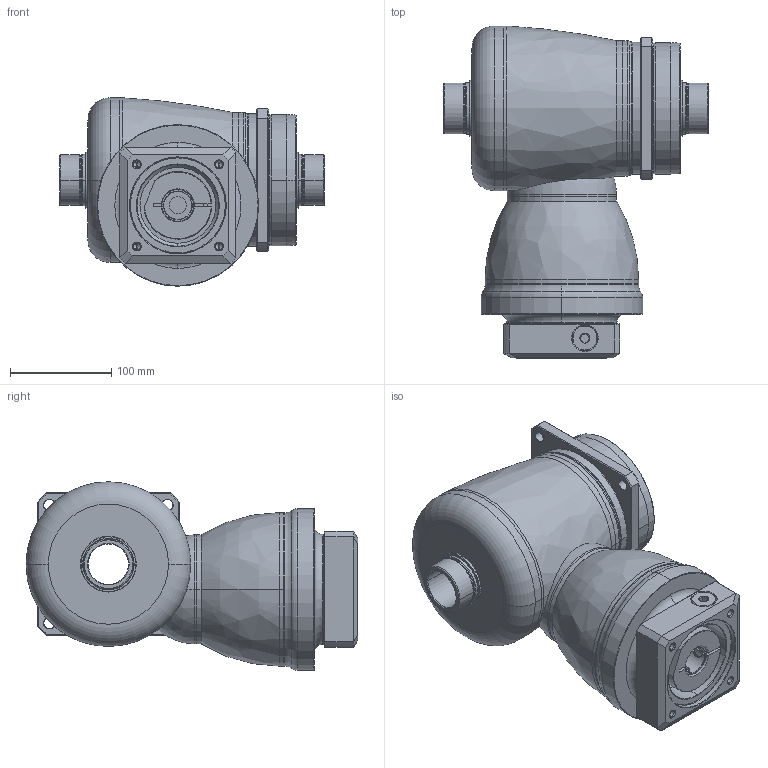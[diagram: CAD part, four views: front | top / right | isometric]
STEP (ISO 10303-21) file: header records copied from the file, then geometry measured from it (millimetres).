
FILE_DESCRIPTION((''),'2;1');
FILE_NAME('KF140_S4_1ST_28-P0409600101_ASM','2016-07-20T',('d01943'),(''),'PRO/ENGINEER BY PARAMETRIC TECHNOLOGY CORPORATION, 2008410','PRO/ENGINEER BY PARAMETRIC TECHNOLOGY CORPORATION, 2008410','');
FILE_SCHEMA(('CONFIG_CONTROL_DESIGN'));
Length unit declared in the file: millimetre
Products named in the file (11): P1008500002; P1804500001; P0914500001; P1315500001; P1007500001; P1318500101; P0409600101; P0503600010; P0912501201; 21711418017; KF140_S4_1ST_28-P0409600101_ASM
Assembly tree (10 placements, depth 2):
  KF140_S4_1ST_28-P0409600101_ASM
    P1008500002
    P1804500001
    P0914500001
    P1315500001
    P1007500001
    P1318500101
    P0409600101
    P0503600010
    P0912501201
    21711418017
Bounding box: 262 x 328.5 x 186.5 mm (x, y, z)
Volume: 4799225.1 mm3; surface area: 576065 mm2
Topology: 11 solids, 11 shells, 492 faces, 1086 edges, 638 vertices
Faces by surface type: cylinder 166, cone 134, plane 99, torus 70, bspline 21, sphere 2
Entity records: 18540 total; most frequent: CARTESIAN_POINT 7393, DIRECTION 2491, ORIENTED_EDGE 2136, EDGE_CURVE 1068, AXIS2_PLACEMENT_3D 1058, VERTEX_POINT 638, CIRCLE 566, EDGE_LOOP 562
